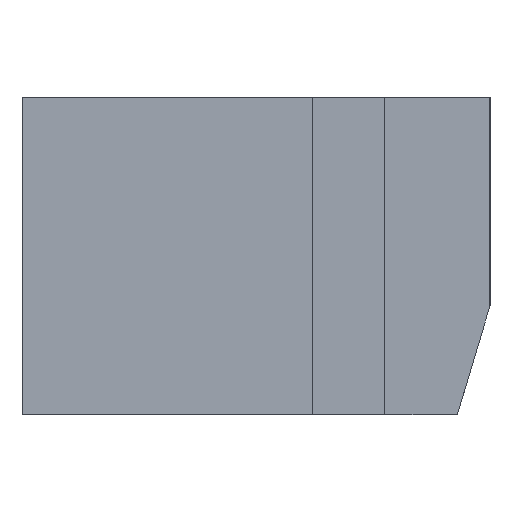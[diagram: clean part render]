
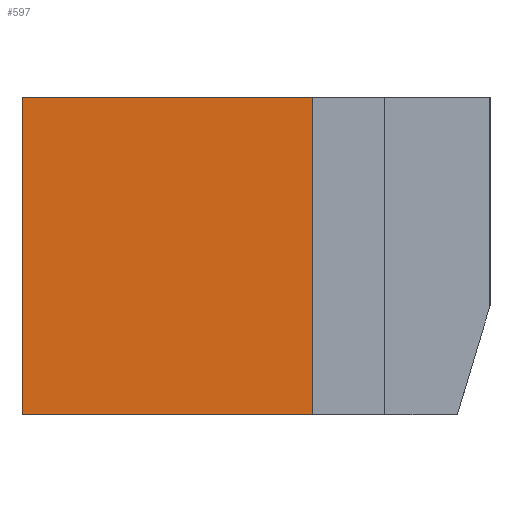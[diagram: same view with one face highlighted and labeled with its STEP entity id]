
A CAD part, left-side view. The second image highlights one B-rep face of the part: STEP entity #597.
In plain terms, the highlighted planar face has unit normal (-1, 0, 0).
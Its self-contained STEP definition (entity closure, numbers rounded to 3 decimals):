
#32 = PLANE('',#33);
#33 = AXIS2_PLACEMENT_3D('',#34,#35,#36);
#34 = CARTESIAN_POINT('',(-13.,3.,2.4));
#35 = DIRECTION('',(0.,0.,-1.));
#36 = DIRECTION('',(0.,-1.,0.));
#393 = VERTEX_POINT('',#394);
#394 = CARTESIAN_POINT('',(-14.4,2.6,2.4));
#408 = PLANE('',#409);
#409 = AXIS2_PLACEMENT_3D('',#410,#411,#412);
#410 = CARTESIAN_POINT('',(-14.4,2.6,2.4));
#411 = DIRECTION('',(0.,1.,0.));
#412 = DIRECTION('',(0.,0.,1.));
#420 = EDGE_CURVE('',#393,#421,#423,.T.);
#421 = VERTEX_POINT('',#422);
#422 = CARTESIAN_POINT('',(-14.4,4.2,2.4));
#423 = SURFACE_CURVE('',#424,(#428,#435),.PCURVE_S1.);
#424 = LINE('',#425,#426);
#425 = CARTESIAN_POINT('',(-14.4,2.6,2.4));
#426 = VECTOR('',#427,1.);
#427 = DIRECTION('',(0.,1.,0.));
#428 = PCURVE('',#32,#429);
#429 = DEFINITIONAL_REPRESENTATION('',(#430),#434);
#430 = LINE('',#431,#432);
#431 = CARTESIAN_POINT('',(0.4,1.4));
#432 = VECTOR('',#433,1.);
#433 = DIRECTION('',(-1.,-0.));
#434 = ( GEOMETRIC_REPRESENTATION_CONTEXT(2) 
PARAMETRIC_REPRESENTATION_CONTEXT() REPRESENTATION_CONTEXT('2D SPACE',''
  ) );
#435 = PCURVE('',#436,#441);
#436 = PLANE('',#437);
#437 = AXIS2_PLACEMENT_3D('',#438,#439,#440);
#438 = CARTESIAN_POINT('',(-14.4,2.6,2.4));
#439 = DIRECTION('',(1.,0.,0.));
#440 = DIRECTION('',(0.,0.,1.));
#441 = DEFINITIONAL_REPRESENTATION('',(#442),#446);
#442 = LINE('',#443,#444);
#443 = CARTESIAN_POINT('',(0.,0.));
#444 = VECTOR('',#445,1.);
#445 = DIRECTION('',(0.,-1.));
#446 = ( GEOMETRIC_REPRESENTATION_CONTEXT(2) 
PARAMETRIC_REPRESENTATION_CONTEXT() REPRESENTATION_CONTEXT('2D SPACE',''
  ) );
#462 = PLANE('',#463);
#463 = AXIS2_PLACEMENT_3D('',#464,#465,#466);
#464 = CARTESIAN_POINT('',(-14.4,4.2,2.4));
#465 = DIRECTION('',(0.,1.,0.));
#466 = DIRECTION('',(0.,0.,1.));
#495 = PLANE('',#496);
#496 = AXIS2_PLACEMENT_3D('',#497,#498,#499);
#497 = CARTESIAN_POINT('',(-13.,1.62,4.15));
#498 = DIRECTION('',(0.,0.,1.));
#499 = DIRECTION('',(0.,1.,0.));
#553 = EDGE_CURVE('',#421,#554,#556,.T.);
#554 = VERTEX_POINT('',#555);
#555 = CARTESIAN_POINT('',(-14.4,4.2,4.15));
#556 = SURFACE_CURVE('',#557,(#561,#568),.PCURVE_S1.);
#557 = LINE('',#558,#559);
#558 = CARTESIAN_POINT('',(-14.4,4.2,2.4));
#559 = VECTOR('',#560,1.);
#560 = DIRECTION('',(0.,0.,1.));
#561 = PCURVE('',#462,#562);
#562 = DEFINITIONAL_REPRESENTATION('',(#563),#567);
#563 = LINE('',#564,#565);
#564 = CARTESIAN_POINT('',(0.,0.));
#565 = VECTOR('',#566,1.);
#566 = DIRECTION('',(1.,0.));
#567 = ( GEOMETRIC_REPRESENTATION_CONTEXT(2) 
PARAMETRIC_REPRESENTATION_CONTEXT() REPRESENTATION_CONTEXT('2D SPACE',''
  ) );
#568 = PCURVE('',#436,#569);
#569 = DEFINITIONAL_REPRESENTATION('',(#570),#574);
#570 = LINE('',#571,#572);
#571 = CARTESIAN_POINT('',(0.,-1.6));
#572 = VECTOR('',#573,1.);
#573 = DIRECTION('',(1.,0.));
#574 = ( GEOMETRIC_REPRESENTATION_CONTEXT(2) 
PARAMETRIC_REPRESENTATION_CONTEXT() REPRESENTATION_CONTEXT('2D SPACE',''
  ) );
#597 = ADVANCED_FACE('',(#598),#436,.F.);
#598 = FACE_BOUND('',#599,.F.);
#599 = EDGE_LOOP('',(#600,#623,#624,#625));
#600 = ORIENTED_EDGE('',*,*,#601,.F.);
#601 = EDGE_CURVE('',#393,#602,#604,.T.);
#602 = VERTEX_POINT('',#603);
#603 = CARTESIAN_POINT('',(-14.4,2.6,4.15));
#604 = SURFACE_CURVE('',#605,(#609,#616),.PCURVE_S1.);
#605 = LINE('',#606,#607);
#606 = CARTESIAN_POINT('',(-14.4,2.6,2.4));
#607 = VECTOR('',#608,1.);
#608 = DIRECTION('',(0.,0.,1.));
#609 = PCURVE('',#436,#610);
#610 = DEFINITIONAL_REPRESENTATION('',(#611),#615);
#611 = LINE('',#612,#613);
#612 = CARTESIAN_POINT('',(0.,0.));
#613 = VECTOR('',#614,1.);
#614 = DIRECTION('',(1.,0.));
#615 = ( GEOMETRIC_REPRESENTATION_CONTEXT(2) 
PARAMETRIC_REPRESENTATION_CONTEXT() REPRESENTATION_CONTEXT('2D SPACE',''
  ) );
#616 = PCURVE('',#408,#617);
#617 = DEFINITIONAL_REPRESENTATION('',(#618),#622);
#618 = LINE('',#619,#620);
#619 = CARTESIAN_POINT('',(0.,0.));
#620 = VECTOR('',#621,1.);
#621 = DIRECTION('',(1.,0.));
#622 = ( GEOMETRIC_REPRESENTATION_CONTEXT(2) 
PARAMETRIC_REPRESENTATION_CONTEXT() REPRESENTATION_CONTEXT('2D SPACE',''
  ) );
#623 = ORIENTED_EDGE('',*,*,#420,.T.);
#624 = ORIENTED_EDGE('',*,*,#553,.T.);
#625 = ORIENTED_EDGE('',*,*,#626,.F.);
#626 = EDGE_CURVE('',#602,#554,#627,.T.);
#627 = SURFACE_CURVE('',#628,(#632,#639),.PCURVE_S1.);
#628 = LINE('',#629,#630);
#629 = CARTESIAN_POINT('',(-14.4,2.6,4.15));
#630 = VECTOR('',#631,1.);
#631 = DIRECTION('',(0.,1.,0.));
#632 = PCURVE('',#436,#633);
#633 = DEFINITIONAL_REPRESENTATION('',(#634),#638);
#634 = LINE('',#635,#636);
#635 = CARTESIAN_POINT('',(1.75,0.));
#636 = VECTOR('',#637,1.);
#637 = DIRECTION('',(0.,-1.));
#638 = ( GEOMETRIC_REPRESENTATION_CONTEXT(2) 
PARAMETRIC_REPRESENTATION_CONTEXT() REPRESENTATION_CONTEXT('2D SPACE',''
  ) );
#639 = PCURVE('',#495,#640);
#640 = DEFINITIONAL_REPRESENTATION('',(#641),#645);
#641 = LINE('',#642,#643);
#642 = CARTESIAN_POINT('',(0.98,1.4));
#643 = VECTOR('',#644,1.);
#644 = DIRECTION('',(1.,0.));
#645 = ( GEOMETRIC_REPRESENTATION_CONTEXT(2) 
PARAMETRIC_REPRESENTATION_CONTEXT() REPRESENTATION_CONTEXT('2D SPACE',''
  ) );
